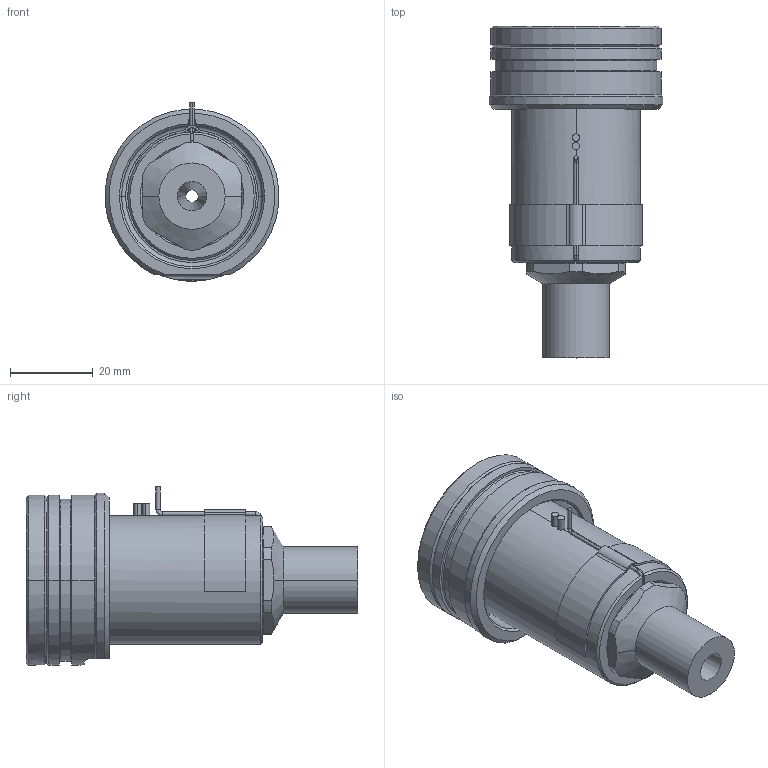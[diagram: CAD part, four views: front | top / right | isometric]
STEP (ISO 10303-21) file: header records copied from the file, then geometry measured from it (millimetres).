
FILE_DESCRIPTION((''),'2;1');
FILE_NAME('EO12_SG_ESG_050_SW','2024-02-19T12:29:41',('sundharh'),(''),'CREO PARAMETRIC BY PTC INC, 2023154','CREO PARAMETRIC BY PTC INC, 2023154','');
FILE_SCHEMA(('CONFIG_CONTROL_DESIGN'));
Length unit declared in the file: millimetre
Products named in the file (1): EO12_SG_ESG_050_SW
Bounding box: 41.85 x 80 x 43 mm (x, y, z)
Volume: 50757.1 mm3; surface area: 16651.2 mm2
Topology: 2 solids, 3 shells, 177 faces, 448 edges, 273 vertices
Faces by surface type: cylinder 65, plane 46, cone 33, torus 27, sphere 3, bspline 3
Entity records: 5983 total; most frequent: CARTESIAN_POINT 1631, DIRECTION 956, ORIENTED_EDGE 888, EDGE_CURVE 444, AXIS2_PLACEMENT_3D 399, VERTEX_POINT 273, CIRCLE 225, EDGE_LOOP 193
